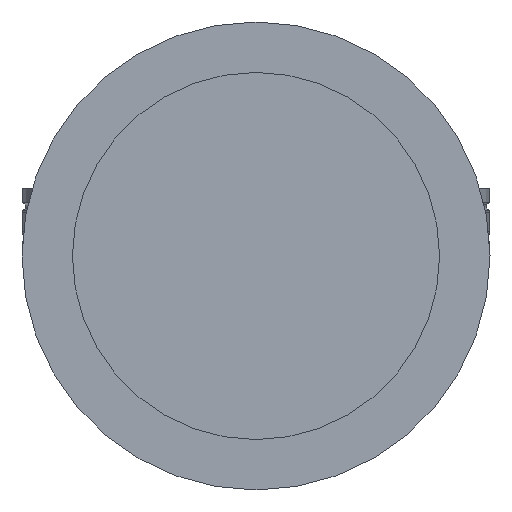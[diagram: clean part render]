
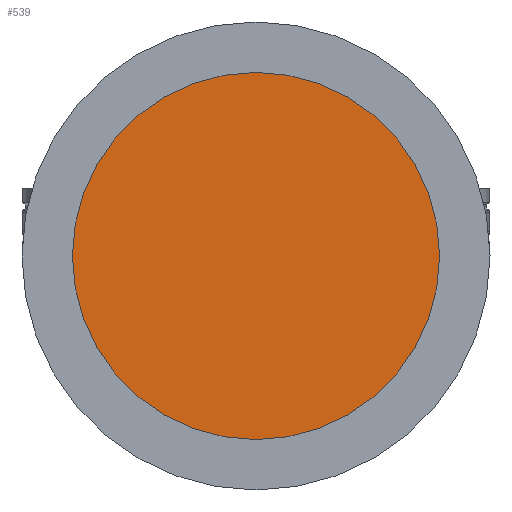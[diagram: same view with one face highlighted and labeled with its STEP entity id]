
A CAD part, left-side view. The second image highlights one B-rep face of the part: STEP entity #539.
In plain terms, the highlighted planar face has unit normal (-1, 0, 0).
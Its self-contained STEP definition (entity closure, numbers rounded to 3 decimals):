
#539 = ADVANCED_FACE( '', ( #1210 ), #1211, .F. );
#1210 = FACE_OUTER_BOUND( '', #1879, .T. );
#1211 = PLANE( '', #1880 );
#1879 = EDGE_LOOP( '', ( #2872 ) );
#1880 = AXIS2_PLACEMENT_3D( '', #2873, #2874, #2875 );
#2872 = ORIENTED_EDGE( '', *, *, #3024, .T. );
#2873 = CARTESIAN_POINT( '', ( -180., -60., 71.692 ) );
#2874 = DIRECTION( '', ( 1., 0., 0. ) );
#2875 = DIRECTION( '', ( 0., 0., -1. ) );
#3024 = EDGE_CURVE( '', #3454, #3454, #3455, .F. );
#3454 = VERTEX_POINT( '', #4020 );
#3455 = CIRCLE( '', #4021, 54. );
#4020 = CARTESIAN_POINT( '', ( -180., 0., -54. ) );
#4021 = AXIS2_PLACEMENT_3D( '', #4543, #4544, #4545 );
#4543 = CARTESIAN_POINT( '', ( -180., 0., 0. ) );
#4544 = DIRECTION( '', ( 1., 0., 0. ) );
#4545 = DIRECTION( '', ( 0., 0., -1. ) );
